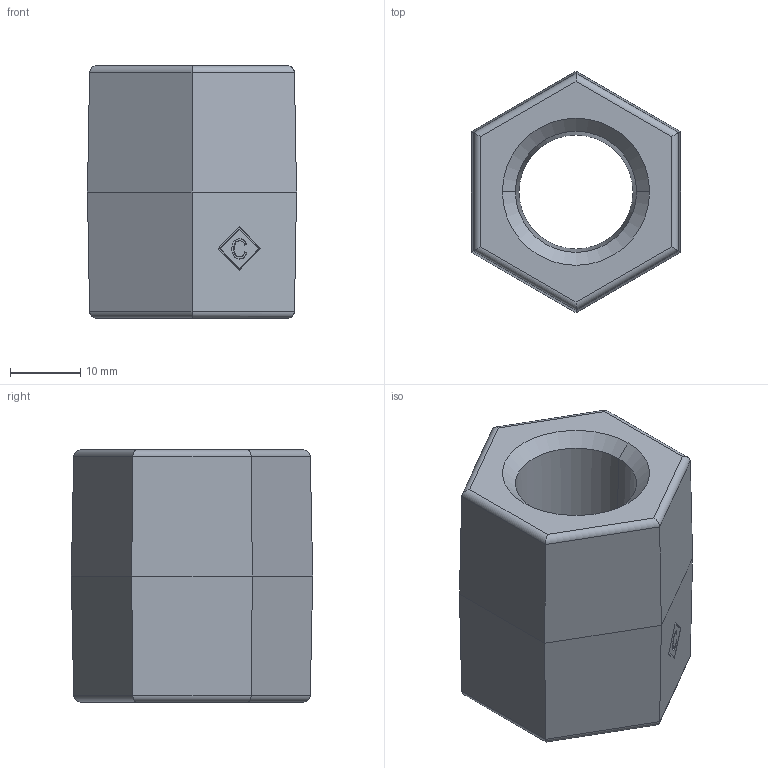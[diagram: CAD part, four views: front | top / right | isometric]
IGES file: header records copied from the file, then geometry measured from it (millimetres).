
Global section: file name: No Iges File Name specified; native system: AutoDesk Inventor R12.0; preprocessor: AutoDesk Inventor Iges Exporter R12.0; date: 20090916.164230; units: millimetre
Bounding box: 29.83 x 34.44 x 36 mm (x, y, z)
Volume: 18911.8 mm3; surface area: 6410.6 mm2
Topology: 1 solids, 1 shells, 55 faces, 126 edges, 76 vertices
Faces by surface type: plane 20, bspline 15, cylinder 12, revolution 8
